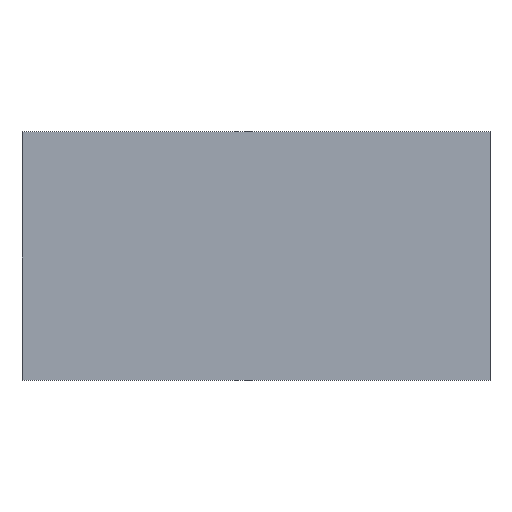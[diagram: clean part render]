
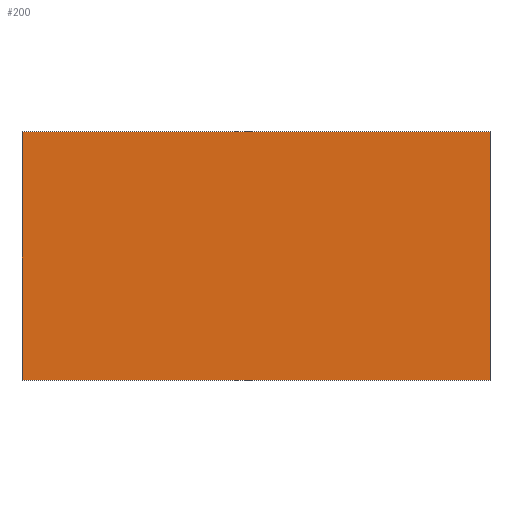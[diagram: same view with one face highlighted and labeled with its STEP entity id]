
A CAD part, top view. The second image highlights one B-rep face of the part: STEP entity #200.
In plain terms, the highlighted planar face has unit normal (0, 0, 1).
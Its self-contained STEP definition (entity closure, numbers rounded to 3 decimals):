
#13 = EDGE_CURVE ( 'NONE', #35, #38, #143, .T. ) ;
#16 = EDGE_CURVE ( 'NONE', #59, #35, #165, .T. ) ;
#18 = EDGE_CURVE ( 'NONE', #38, #43, #132, .T. ) ;
#20 = EDGE_CURVE ( 'NONE', #43, #59, #191, .T. ) ;
#23 = AXIS2_PLACEMENT_3D ( 'NONE', #103, #80, #79 ) ;
#35 = VERTEX_POINT ( 'NONE', #95 ) ;
#38 = VERTEX_POINT ( 'NONE', #99 ) ;
#43 = VERTEX_POINT ( 'NONE', #93 ) ;
#59 = VERTEX_POINT ( 'NONE', #84 ) ;
#76 = PLANE ( 'NONE',  #23 ) ;
#79 = DIRECTION ( 'NONE',  ( 0., 1., 0. ) ) ;
#80 = DIRECTION ( 'NONE',  ( 0., 0., -1. ) ) ;
#84 = CARTESIAN_POINT ( 'NONE',  ( 404., 0., 6. ) ) ;
#87 = CARTESIAN_POINT ( 'NONE',  ( -404., 0., 6. ) ) ;
#93 = CARTESIAN_POINT ( 'NONE',  ( -404., 0., 6. ) ) ;
#95 = CARTESIAN_POINT ( 'NONE',  ( 404., 429., 6. ) ) ;
#99 = CARTESIAN_POINT ( 'NONE',  ( -404., 429., 6. ) ) ;
#101 = DIRECTION ( 'NONE',  ( 1., 0., 0. ) ) ;
#103 = CARTESIAN_POINT ( 'NONE',  ( -404., 429., 6. ) ) ;
#110 = DIRECTION ( 'NONE',  ( 0., -1., 0. ) ) ;
#116 = DIRECTION ( 'NONE',  ( -1., 0., 0. ) ) ;
#117 = DIRECTION ( 'NONE',  ( 0., 1., 0. ) ) ;
#120 = CARTESIAN_POINT ( 'NONE',  ( -404., 0., 6. ) ) ;
#122 = CARTESIAN_POINT ( 'NONE',  ( 404., 0., 6. ) ) ;
#123 = CARTESIAN_POINT ( 'NONE',  ( -404., 429., 6. ) ) ;
#125 = ORIENTED_EDGE ( 'NONE', *, *, #13, .T. ) ;
#132 = LINE ( 'NONE', #120, #176 ) ;
#143 = LINE ( 'NONE', #123, #146 ) ;
#146 = VECTOR ( 'NONE', #116, 1000. ) ;
#148 = EDGE_LOOP ( 'NONE', ( #152, #155, #161, #125 ) ) ;
#152 = ORIENTED_EDGE ( 'NONE', *, *, #18, .T. ) ;
#155 = ORIENTED_EDGE ( 'NONE', *, *, #20, .T. ) ;
#161 = ORIENTED_EDGE ( 'NONE', *, *, #16, .T. ) ;
#165 = LINE ( 'NONE', #122, #170 ) ;
#170 = VECTOR ( 'NONE', #117, 1000. ) ;
#176 = VECTOR ( 'NONE', #110, 1000. ) ;
#182 = VECTOR ( 'NONE', #101, 1000. ) ;
#183 = FACE_OUTER_BOUND ( 'NONE', #148, .T. ) ;
#191 = LINE ( 'NONE', #87, #182 ) ;
#200 = ADVANCED_FACE ( 'NONE', ( #183 ), #76, .F. ) ;
